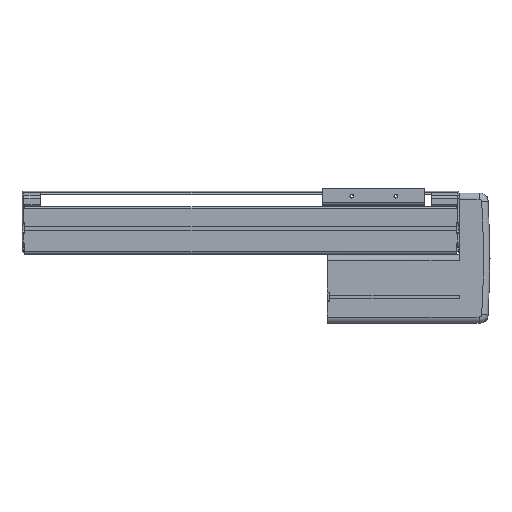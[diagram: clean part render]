
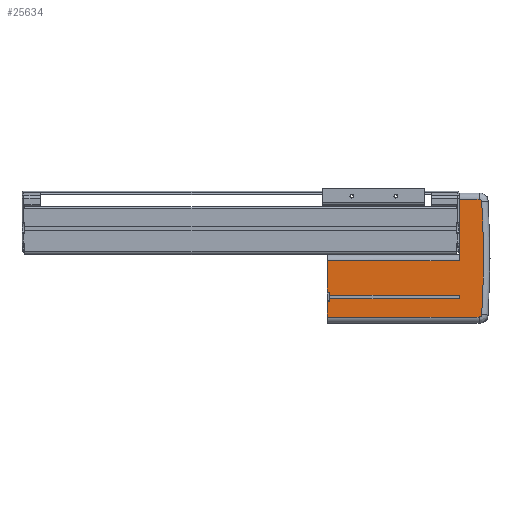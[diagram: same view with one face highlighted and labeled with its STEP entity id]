
A CAD part, top view. The second image highlights one B-rep face of the part: STEP entity #25634.
In plain terms, the highlighted planar face has unit normal (0, 0, 1).
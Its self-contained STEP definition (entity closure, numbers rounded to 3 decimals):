
#4116=DIRECTION('',(1.,0.,0.));
#4117=VECTOR('',#4116,22.587);
#4118=CARTESIAN_POINT('',(494.,-70.,33.));
#4119=LINE('',#4118,#4117);
#4128=DIRECTION('',(-1.,0.,0.));
#4129=VECTOR('',#4128,150.);
#4130=CARTESIAN_POINT('',(494.,-70.,33.));
#4131=LINE('',#4130,#4129);
#4132=DIRECTION('',(0.,-1.,0.));
#4133=VECTOR('',#4132,17.5);
#4134=CARTESIAN_POINT('',(344.,-52.5,33.));
#4135=LINE('',#4134,#4133);
#4136=DIRECTION('',(0.,-1.,0.));
#4137=VECTOR('',#4136,3.4);
#4138=CARTESIAN_POINT('',(347.,-49.1,33.));
#4139=LINE('',#4138,#4137);
#4140=DIRECTION('',(0.,1.,0.));
#4141=VECTOR('',#4140,4.2);
#4142=CARTESIAN_POINT('',(494.,-49.1,33.));
#4143=LINE('',#4142,#4141);
#4144=DIRECTION('',(0.,-1.,0.));
#4145=VECTOR('',#4144,3.4);
#4146=CARTESIAN_POINT('',(347.,-41.5,33.));
#4147=LINE('',#4146,#4145);
#4148=DIRECTION('',(0.,-1.,0.));
#4149=VECTOR('',#4148,35.5);
#4150=CARTESIAN_POINT('',(344.,-6.,33.));
#4151=LINE('',#4150,#4149);
#4152=DIRECTION('',(0.,1.,0.));
#4153=VECTOR('',#4152,70.);
#4154=CARTESIAN_POINT('',(494.,-6.,33.));
#4155=LINE('',#4154,#4153);
#4156=CARTESIAN_POINT('',(516.587,60.999,33.));
#4157=DIRECTION('',(0.,0.,-1.));
#4158=DIRECTION('',(0.,1.,0.));
#4159=AXIS2_PLACEMENT_3D('',#4156,#4157,#4158);
#4161=CARTESIAN_POINT('',(-471.,-3.,33.));
#4162=DIRECTION('',(0.,0.,-1.));
#4163=DIRECTION('',(0.998,0.065,0.));
#4164=AXIS2_PLACEMENT_3D('',#4161,#4162,#4163);
#4166=CARTESIAN_POINT('',(516.587,-66.999,33.));
#4167=DIRECTION('',(0.,0.,-1.));
#4168=DIRECTION('',(0.998,-0.065,0.));
#4169=AXIS2_PLACEMENT_3D('',#4166,#4167,#4168);
#4171=DIRECTION('',(-1.,0.,0.));
#4172=VECTOR('',#4171,3.);
#4173=CARTESIAN_POINT('',(347.,-52.5,33.));
#4174=LINE('',#4173,#4172);
#4203=DIRECTION('',(1.,0.,0.));
#4204=VECTOR('',#4203,3.);
#4205=CARTESIAN_POINT('',(344.,-41.5,33.));
#4206=LINE('',#4205,#4204);
#4211=DIRECTION('',(-1.,0.,0.));
#4212=VECTOR('',#4211,147.);
#4213=CARTESIAN_POINT('',(494.,-49.1,33.));
#4214=LINE('',#4213,#4212);
#4299=DIRECTION('',(1.,0.,0.));
#4300=VECTOR('',#4299,147.);
#4301=CARTESIAN_POINT('',(347.,-44.9,33.));
#4302=LINE('',#4301,#4300);
#4308=DIRECTION('',(-1.,0.,0.));
#4309=VECTOR('',#4308,150.);
#4310=CARTESIAN_POINT('',(494.,-6.,33.));
#4311=LINE('',#4310,#4309);
#13323=DIRECTION('',(-1.,0.,0.));
#13324=VECTOR('',#13323,22.587);
#13325=CARTESIAN_POINT('',(516.587,64.,33.));
#13326=LINE('',#13325,#13324);
#16195=CARTESIAN_POINT('',(344.,-6.,33.));
#16196=CARTESIAN_POINT('',(344.,-41.5,33.));
#16197=VERTEX_POINT('',#16195);
#16198=VERTEX_POINT('',#16196);
#16207=CARTESIAN_POINT('',(344.,-52.5,33.));
#16208=VERTEX_POINT('',#16207);
#16209=CARTESIAN_POINT('',(344.,-70.,33.));
#16210=VERTEX_POINT('',#16209);
#16332=CARTESIAN_POINT('',(494.,64.,33.));
#16334=VERTEX_POINT('',#16332);
#16347=CARTESIAN_POINT('',(516.587,-70.,
33.));
#16348=VERTEX_POINT('',#16347);
#16349=CARTESIAN_POINT('',(519.582,-67.194,
33.));
#16350=VERTEX_POINT('',#16349);
#16351=CARTESIAN_POINT('',(519.582,61.194,33.));
#16352=VERTEX_POINT('',#16351);
#16353=CARTESIAN_POINT('',(516.587,64.,33.));
#16354=VERTEX_POINT('',#16353);
#16577=CARTESIAN_POINT('',(347.,-44.9,33.));
#16579=VERTEX_POINT('',#16577);
#16590=CARTESIAN_POINT('',(347.,-49.1,33.));
#16591=VERTEX_POINT('',#16590);
#19842=CARTESIAN_POINT('',(347.,-52.5,33.));
#19844=VERTEX_POINT('',#19842);
#19852=CARTESIAN_POINT('',(347.,-41.5,33.));
#19853=VERTEX_POINT('',#19852);
#20020=CARTESIAN_POINT('',(494.,-6.,33.));
#20021=VERTEX_POINT('',#20020);
#20022=CARTESIAN_POINT('',(494.,-44.9,33.));
#20023=VERTEX_POINT('',#20022);
#20024=CARTESIAN_POINT('',(494.,-49.1,33.));
#20025=VERTEX_POINT('',#20024);
#20026=CARTESIAN_POINT('',(494.,-70.,33.));
#20027=VERTEX_POINT('',#20026);
#25603=CARTESIAN_POINT('',(420.5,-25.45,33.));
#25604=DIRECTION('',(0.,0.,1.));
#25605=DIRECTION('',(0.,1.,0.));
#25606=AXIS2_PLACEMENT_3D('',#25603,#25604,#25605);
#25607=PLANE('',#25606);
#25608=ORIENTED_EDGE('',*,*,#25594,.F.);
#25609=ORIENTED_EDGE('',*,*,#25592,.T.);
#25610=ORIENTED_EDGE('',*,*,#20782,.F.);
#25612=ORIENTED_EDGE('',*,*,#25611,.F.);
#25613=ORIENTED_EDGE('',*,*,#22206,.F.);
#25615=ORIENTED_EDGE('',*,*,#25614,.F.);
#25616=ORIENTED_EDGE('',*,*,#24631,.T.);
#25618=ORIENTED_EDGE('',*,*,#25617,.F.);
#25619=ORIENTED_EDGE('',*,*,#22190,.F.);
#25621=ORIENTED_EDGE('',*,*,#25620,.F.);
#25622=ORIENTED_EDGE('',*,*,#20770,.F.);
#25624=ORIENTED_EDGE('',*,*,#25623,.F.);
#25625=ORIENTED_EDGE('',*,*,#24607,.T.);
#25627=ORIENTED_EDGE('',*,*,#25626,.F.);
#25629=ORIENTED_EDGE('',*,*,#25628,.T.);
#25630=ORIENTED_EDGE('',*,*,#25554,.T.);
#25631=ORIENTED_EDGE('',*,*,#25581,.T.);
#25632=EDGE_LOOP('',(#25608,#25609,#25610,#25612,#25613,#25615,#25616,#25618,
#25619,#25621,#25622,#25624,#25625,#25627,#25629,#25630,#25631));
#25633=FACE_OUTER_BOUND('',#25632,.F.);
#25634=ADVANCED_FACE('',(#25633),#25607,.T.);
#4160=CIRCLE('',#4159,3.001);
#4165=CIRCLE('',#4164,992.66);
#4170=CIRCLE('',#4169,3.001);
#20770=EDGE_CURVE('',#16197,#16198,#4151,.T.);
#20782=EDGE_CURVE('',#16208,#16210,#4135,.T.);
#22190=EDGE_CURVE('',#19853,#16579,#4147,.T.);
#22206=EDGE_CURVE('',#16591,#19844,#4139,.T.);
#24607=EDGE_CURVE('',#20021,#16334,#4155,.T.);
#24631=EDGE_CURVE('',#20025,#20023,#4143,.T.);
#25554=EDGE_CURVE('',#16352,#16350,#4165,.T.);
#25581=EDGE_CURVE('',#16350,#16348,#4170,.T.);
#25592=EDGE_CURVE('',#20027,#16210,#4131,.T.);
#25594=EDGE_CURVE('',#20027,#16348,#4119,.T.);
#25611=EDGE_CURVE('',#19844,#16208,#4174,.T.);
#25614=EDGE_CURVE('',#20025,#16591,#4214,.T.);
#25617=EDGE_CURVE('',#16579,#20023,#4302,.T.);
#25620=EDGE_CURVE('',#16198,#19853,#4206,.T.);
#25623=EDGE_CURVE('',#20021,#16197,#4311,.T.);
#25626=EDGE_CURVE('',#16354,#16334,#13326,.T.);
#25628=EDGE_CURVE('',#16354,#16352,#4160,.T.);
